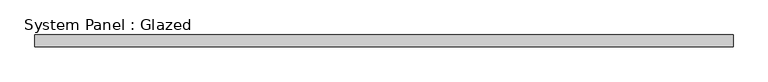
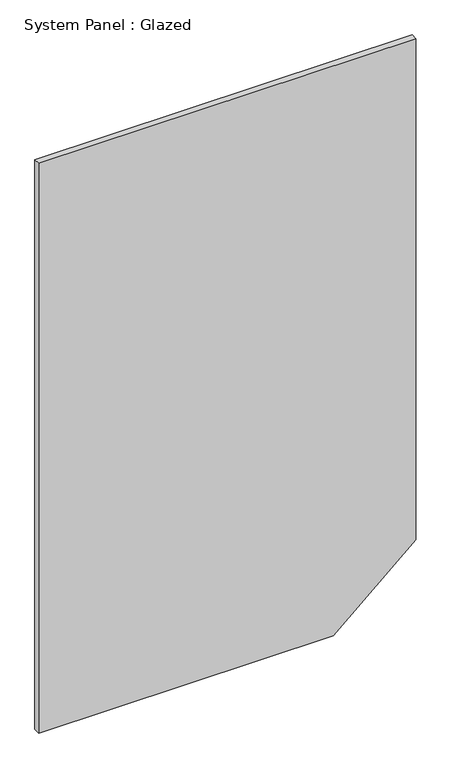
"""IFC4 building model written with IfcOpenShell, lengths in millimetres: plate geometry, System Panel : Glazed."""

from ifc_helpers import new_model, si_unit, frame, origin, place, context, project, spatial, polyline, outline, extrude, source, transform, mapped, element, save


def system_panel_glazed_b388b999(model_context):
    return source(origin(), model_context, "Body", "SweptSolid", [
        extrude(outline(polyline([(0.0, -735.8695652), (0.0, 413.3247797), (282.793511, 735.8695652), (2350.0, 735.8695652), (2350.0, -735.8695652), (0.0, -735.8695652)])), frame((0.0, 24.5, 0.0), z_axis=(0.0, 1.0, 0.0), x_axis=(0.0, 0.0, 1.0)), (0.0, 0.0, 1.0), 25.0),
    ])


if __name__ == "__main__":
    model = new_model("IFC4")
    model_context = context("Model", 3, world=origin())
    ifc_project = project(units=[si_unit("LENGTHUNIT", "METRE", prefix="MILLI")], contexts=[model_context])
    site = spatial("IfcSite", under=ifc_project)
    building = spatial("IfcBuilding", under=site)
    placement = place(None, origin())
    system_panel_glazed_shape = system_panel_glazed_b388b999(model_context)
    element("IfcPlate", 1, ObjectType="System Panel : Glazed", at=placement, inside=building, context=model_context, shape_type="MappedRepresentation", body=[
        mapped(system_panel_glazed_shape, transform((0.0, 0.0, 0.0), x_axis=(1.0, 0.0, 0.0), y_axis=(0.0, 1.0, 0.0), z_axis=(0.0, 0.0, 1.0))),
    ])
    save(model, "model.ifc")
